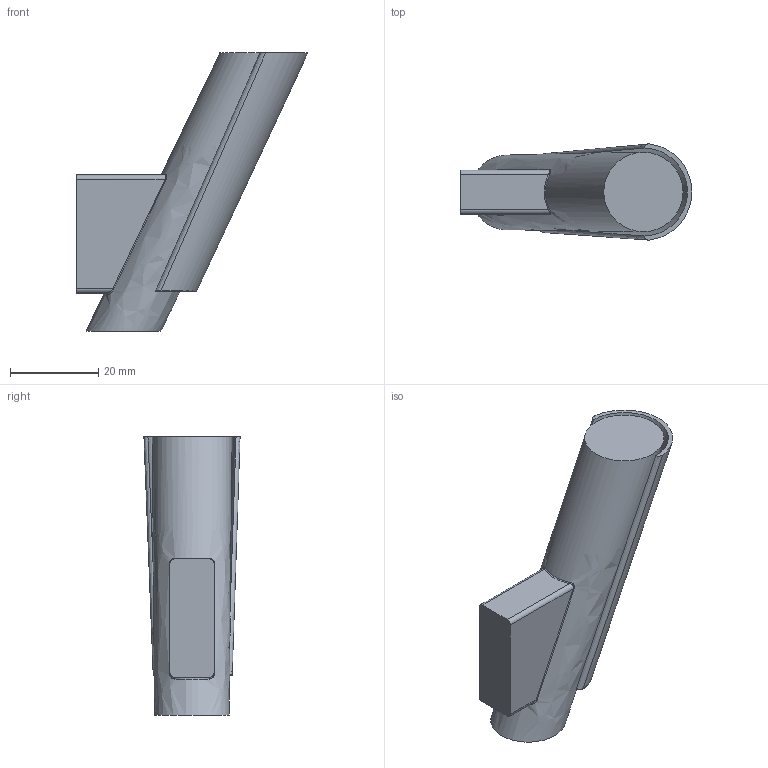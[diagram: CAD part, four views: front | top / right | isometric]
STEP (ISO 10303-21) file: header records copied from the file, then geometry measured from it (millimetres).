
FILE_DESCRIPTION(('STEP AP242'), '1');
FILE_NAME('栖闉罻', '', ('UNSPECIFIED'), ('UNSPECIFIED'), 'ASCON STEP Converter 1.6', 'ASCON Math Kernel', '');
FILE_SCHEMA(('AP242_MANAGED_MODEL_BASED_3D_ENGINEERING_MIM_LF { 1 0 10303 442 1 1 4 }'));
Length unit declared in the file: millimetre
Assembly tree (1 placements, depth 2):
  (unnamed)
    (unnamed)
Bounding box: 52.54 x 21.84 x 63.11 mm (x, y, z)
Volume: 20362.5 mm3; surface area: 8643.7 mm2
Topology: 1 solids, 1 shells, 30 faces, 68 edges, 42 vertices
Faces by surface type: bspline 17, plane 9, cylinder 4
Entity records: 4435 total; most frequent: CARTESIAN_POINT 3569, ORIENTED_EDGE 134, EDGE_CURVE 67, DIRECTION 60, B_SPLINE_CURVE_WITH_KNOTS 45, VERTEX_POINT 42, EDGE_LOOP 33, COLOUR_RGB 31
